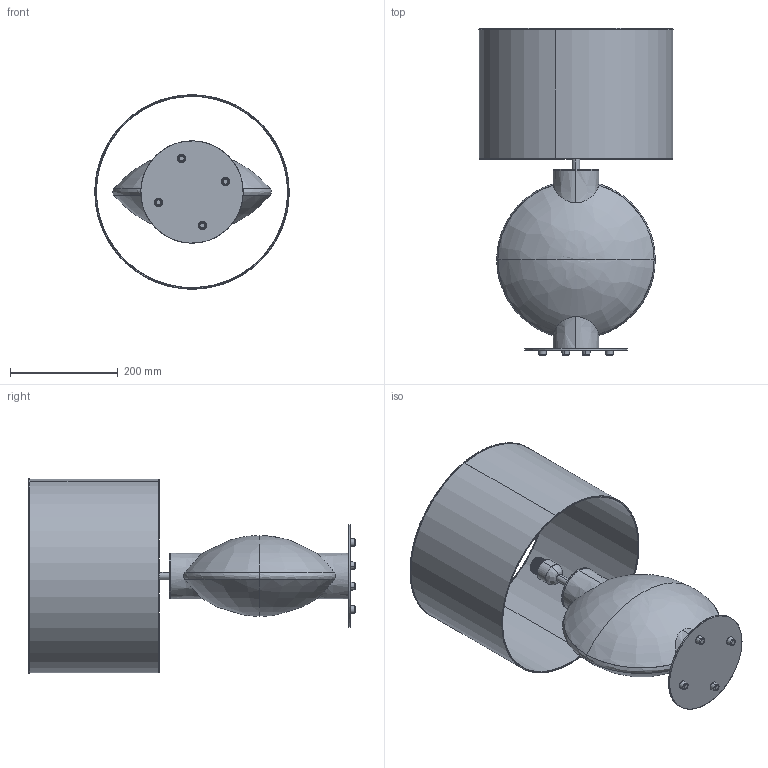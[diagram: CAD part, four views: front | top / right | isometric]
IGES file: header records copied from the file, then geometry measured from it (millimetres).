
Start section: SolidWorks IGES file using analytic representation for surfaces
Global section: file name: C:\Users\Agus\Desktop\NOVEDADES SEPT 2022 - 3D\TILLA\TILLA.IGS; native system: SolidWorks 2018; preprocessor: SolidWorks 2018; author: Agus; date: 220704.151551; units: millimetre
Bounding box: 360.74 x 607.44 x 360.81 mm (x, y, z)
Surface area: 988762.2 mm2 (no closed solid volume)
Topology: 0 solids, 0 shells, 112 faces, 2499 edges, 2497 vertices
Faces by surface type: revolution 65, bspline 47
